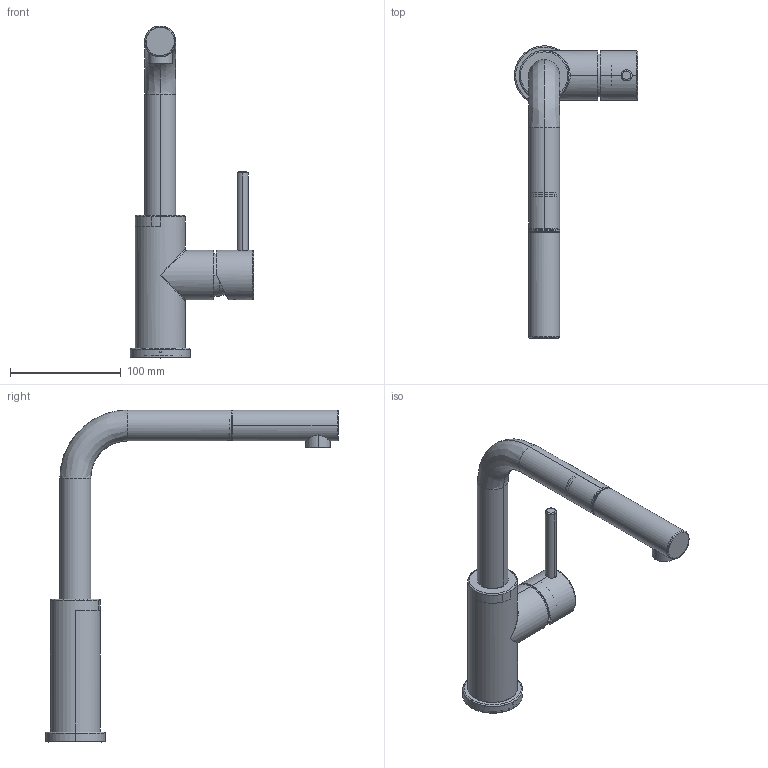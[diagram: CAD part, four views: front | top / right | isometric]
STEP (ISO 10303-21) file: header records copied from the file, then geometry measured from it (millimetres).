
FILE_DESCRIPTION(/* description */ (''),/* implementation_level */ '2;1');
FILE_NAME(/* name */ '3D001_Taps_Smart-Glenda_Pull-Out-Nozzle',/* time_stamp */ '2024-03-12T15:41:51+01:00',/* author */ (''),/* organization */ (''),/* preprocessor_version */ 'ST-DEVELOPER v19.2',/* originating_system */ 'Rhino 8.3',/* authorisation */ '');
FILE_SCHEMA (('CONFIG_CONTROL_DESIGN'));
Length unit declared in the file: millimetre
Products named in the file (22): Document; LOGO_CALDO_FREDDO; V1014; LS-050040N-B; LS-050040N-A; V249SW6; V103SW5; SLY-0055; GT2123-06; OXQ-165220-NJ; GT2123-08; GT2123-07; GT2123L-02-01; 4323050101; Blocco 06; DLT045-04; DLT045-01; LP2902-092; LS-040060N-C; OXQ-335180-NJ; PDP-520425730-R; GT2008-05
Bounding box: 111.57 x 264.9 x 300.2 mm (x, y, z)
Volume: 82535.7 mm3; surface area: 167078 mm2
Topology: 28 solids, 2544 shells, 6274 faces, 22029 edges, 14285 vertices
Faces by surface type: plane 5631, bspline 336, cylinder 307
Entity records: 229234 total; most frequent: CARTESIAN_POINT 94544, ORIENTED_EDGE 28321, EDGE_CURVE 22010, B_SPLINE_CURVE_WITH_KNOTS 20988, VERTEX_POINT 14283, DIRECTION 8070, AXIS2_PLACEMENT_3D 7000, EDGE_LOOP 6392
